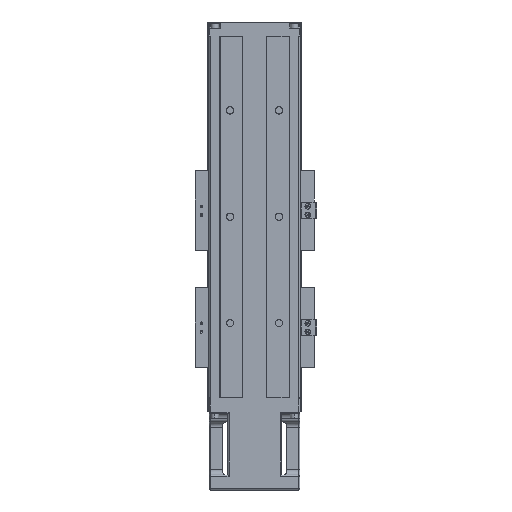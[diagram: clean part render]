
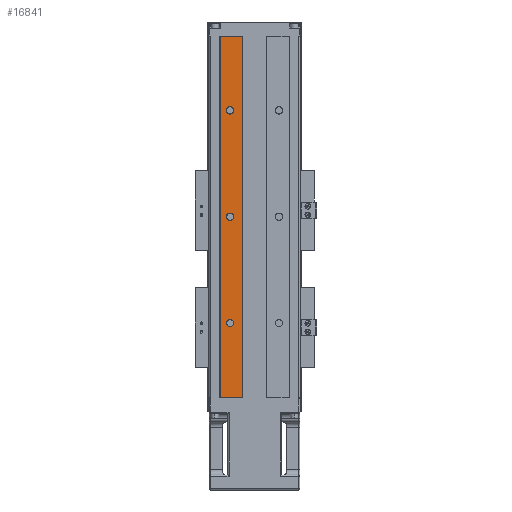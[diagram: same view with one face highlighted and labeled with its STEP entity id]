
A CAD part, front view. The second image highlights one B-rep face of the part: STEP entity #16841.
In plain terms, the highlighted planar face has unit normal (0, -1, 0).
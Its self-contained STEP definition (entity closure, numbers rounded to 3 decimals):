
#1370 = CARTESIAN_POINT ( 'NONE',  ( -11.5, 0., 340. ) ) ;
#1484 = ORIENTED_EDGE ( 'NONE', *, *, #23902, .T. ) ;
#2145 = CARTESIAN_POINT ( 'NONE',  ( -32.5, 0., 0. ) ) ;
#2733 = VERTEX_POINT ( 'NONE', #2145 ) ;
#3572 = EDGE_CURVE ( 'NONE', #35577, #73033, #52710, .T. ) ;
#5552 = DIRECTION ( 'NONE',  ( 0., 1., 0. ) ) ;
#5627 = DIRECTION ( 'NONE',  ( 0., 0., -1. ) ) ;
#6396 = EDGE_CURVE ( 'NONE', #52874, #7382, #26256, .T. ) ;
#6655 = DIRECTION ( 'NONE',  ( 0., 0., -1. ) ) ;
#7382 = VERTEX_POINT ( 'NONE', #1370 ) ;
#8962 = CARTESIAN_POINT ( 'NONE',  ( -23., 0., 266.5 ) ) ;
#12445 = VERTEX_POINT ( 'NONE', #37759 ) ;
#14620 = CARTESIAN_POINT ( 'NONE',  ( -32.5, 0., 340. ) ) ;
#16218 = VERTEX_POINT ( 'NONE', #30036 ) ;
#16841 = ADVANCED_FACE ( 'NONE', ( #52413, #57629, #47958, #46486 ), #53133, .T. ) ;
#17339 = DIRECTION ( 'NONE',  ( 0., 0., -1. ) ) ;
#17693 = VERTEX_POINT ( 'NONE', #14620 ) ;
#18257 = AXIS2_PLACEMENT_3D ( 'NONE', #56710, #5552, #33351 ) ;
#18533 = AXIS2_PLACEMENT_3D ( 'NONE', #67952, #62813, #17339 ) ;
#19465 = CIRCLE ( 'NONE', #57306, 3.5 ) ;
#20122 = EDGE_CURVE ( 'NONE', #7382, #17693, #25249, .T. ) ;
#20539 = EDGE_CURVE ( 'NONE', #16218, #12445, #33867, .T. ) ;
#23548 = ORIENTED_EDGE ( 'NONE', *, *, #3572, .T. ) ;
#23686 = EDGE_CURVE ( 'NONE', #73033, #35577, #51338, .T. ) ;
#23902 = EDGE_CURVE ( 'NONE', #48882, #67903, #31209, .T. ) ;
#24211 = DIRECTION ( 'NONE',  ( 0., 0., -1. ) ) ;
#24340 = CARTESIAN_POINT ( 'NONE',  ( 43., 0., 340. ) ) ;
#24513 = ORIENTED_EDGE ( 'NONE', *, *, #48182, .T. ) ;
#25049 = DIRECTION ( 'NONE',  ( 0., 0., -1. ) ) ;
#25249 = LINE ( 'NONE', #41879, #30850 ) ;
#26256 = LINE ( 'NONE', #43296, #28855 ) ;
#28211 = DIRECTION ( 'NONE',  ( -1., 0., 0. ) ) ;
#28855 = VECTOR ( 'NONE', #65787, 1000. ) ;
#30036 = CARTESIAN_POINT ( 'NONE',  ( -23., 0., 73.5 ) ) ;
#30426 = CARTESIAN_POINT ( 'NONE',  ( -23., 0., 70. ) ) ;
#30850 = VECTOR ( 'NONE', #71007, 1000. ) ;
#31088 = VECTOR ( 'NONE', #28211, 1000. ) ;
#31209 = CIRCLE ( 'NONE', #18257, 3.5 ) ;
#33351 = DIRECTION ( 'NONE',  ( 0., 0., -1. ) ) ;
#33867 = CIRCLE ( 'NONE', #18533, 3.5 ) ;
#34430 = AXIS2_PLACEMENT_3D ( 'NONE', #49981, #68016, #45146 ) ;
#35577 = VERTEX_POINT ( 'NONE', #35687 ) ;
#35687 = CARTESIAN_POINT ( 'NONE',  ( -23., 0., 166.5 ) ) ;
#36427 = EDGE_CURVE ( 'NONE', #17693, #2733, #67783, .T. ) ;
#37759 = CARTESIAN_POINT ( 'NONE',  ( -23., 0., 66.5 ) ) ;
#39161 = CIRCLE ( 'NONE', #34430, 3.5 ) ;
#39989 = ORIENTED_EDGE ( 'NONE', *, *, #71945, .F. ) ;
#40464 = CARTESIAN_POINT ( 'NONE',  ( -32.5, 0., 340. ) ) ;
#40543 = ORIENTED_EDGE ( 'NONE', *, *, #41691, .T. ) ;
#40643 = CARTESIAN_POINT ( 'NONE',  ( -23., 0., 173.5 ) ) ;
#41691 = EDGE_CURVE ( 'NONE', #67903, #48882, #39161, .T. ) ;
#41879 = CARTESIAN_POINT ( 'NONE',  ( -22.1, 0., 340. ) ) ;
#41920 = DIRECTION ( 'NONE',  ( 0., 1., 0. ) ) ;
#42802 = ORIENTED_EDGE ( 'NONE', *, *, #23686, .T. ) ;
#43296 = CARTESIAN_POINT ( 'NONE',  ( -11.5, 0., 340. ) ) ;
#45146 = DIRECTION ( 'NONE',  ( 0., 0., -1. ) ) ;
#46486 = FACE_OUTER_BOUND ( 'NONE', #47699, .T. ) ;
#47384 = CARTESIAN_POINT ( 'NONE',  ( -23., 0., 170. ) ) ;
#47699 = EDGE_LOOP ( 'NONE', ( #49623, #60533, #39989, #48816 ) ) ;
#47958 = FACE_BOUND ( 'NONE', #51377, .T. ) ;
#48182 = EDGE_CURVE ( 'NONE', #12445, #16218, #19465, .T. ) ;
#48605 = CARTESIAN_POINT ( 'NONE',  ( -11.5, 0., 0. ) ) ;
#48646 = ORIENTED_EDGE ( 'NONE', *, *, #20539, .T. ) ;
#48816 = ORIENTED_EDGE ( 'NONE', *, *, #6396, .T. ) ;
#48882 = VERTEX_POINT ( 'NONE', #8962 ) ;
#49623 = ORIENTED_EDGE ( 'NONE', *, *, #20122, .T. ) ;
#49981 = CARTESIAN_POINT ( 'NONE',  ( -23., 0., 270. ) ) ;
#51312 = AXIS2_PLACEMENT_3D ( 'NONE', #24340, #58326, #25049 ) ;
#51338 = CIRCLE ( 'NONE', #70131, 3.5 ) ;
#51377 = EDGE_LOOP ( 'NONE', ( #23548, #42802 ) ) ;
#52413 = FACE_BOUND ( 'NONE', #59839, .T. ) ;
#52710 = CIRCLE ( 'NONE', #68040, 3.5 ) ;
#52874 = VERTEX_POINT ( 'NONE', #48605 ) ;
#53133 = PLANE ( 'NONE',  #51312 ) ;
#55370 = VECTOR ( 'NONE', #5627, 1000. ) ;
#56710 = CARTESIAN_POINT ( 'NONE',  ( -23., 0., 270. ) ) ;
#57306 = AXIS2_PLACEMENT_3D ( 'NONE', #30426, #58538, #62961 ) ;
#57629 = FACE_BOUND ( 'NONE', #60964, .T. ) ;
#58326 = DIRECTION ( 'NONE',  ( 0., -1., 0. ) ) ;
#58538 = DIRECTION ( 'NONE',  ( 0., 1., 0. ) ) ;
#59839 = EDGE_LOOP ( 'NONE', ( #24513, #48646 ) ) ;
#60533 = ORIENTED_EDGE ( 'NONE', *, *, #36427, .T. ) ;
#60964 = EDGE_LOOP ( 'NONE', ( #1484, #40543 ) ) ;
#61119 = CARTESIAN_POINT ( 'NONE',  ( -22.1, 0., 0. ) ) ;
#61939 = DIRECTION ( 'NONE',  ( 0., 1., 0. ) ) ;
#62813 = DIRECTION ( 'NONE',  ( 0., 1., 0. ) ) ;
#62961 = DIRECTION ( 'NONE',  ( 0., 0., -1. ) ) ;
#63634 = CARTESIAN_POINT ( 'NONE',  ( -23., 0., 273.5 ) ) ;
#64462 = CARTESIAN_POINT ( 'NONE',  ( -23., 0., 170. ) ) ;
#65787 = DIRECTION ( 'NONE',  ( 0., 0., 1. ) ) ;
#66995 = LINE ( 'NONE', #61119, #31088 ) ;
#67783 = LINE ( 'NONE', #40464, #55370 ) ;
#67903 = VERTEX_POINT ( 'NONE', #63634 ) ;
#67952 = CARTESIAN_POINT ( 'NONE',  ( -23., 0., 70. ) ) ;
#68016 = DIRECTION ( 'NONE',  ( 0., 1., 0. ) ) ;
#68040 = AXIS2_PLACEMENT_3D ( 'NONE', #47384, #61939, #6655 ) ;
#70131 = AXIS2_PLACEMENT_3D ( 'NONE', #64462, #41920, #24211 ) ;
#71007 = DIRECTION ( 'NONE',  ( -1., 0., 0. ) ) ;
#71945 = EDGE_CURVE ( 'NONE', #52874, #2733, #66995, .T. ) ;
#73033 = VERTEX_POINT ( 'NONE', #40643 ) ;
